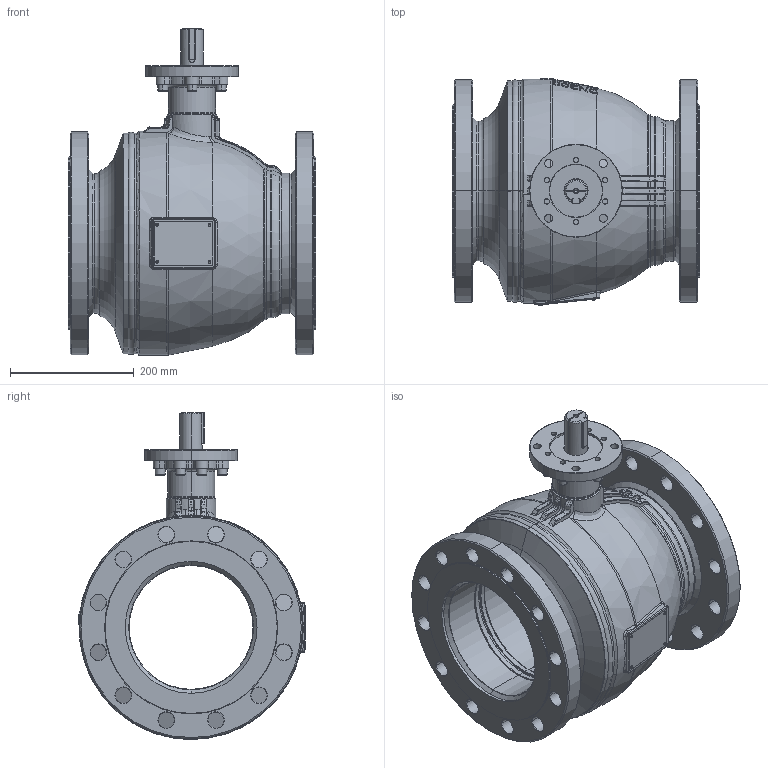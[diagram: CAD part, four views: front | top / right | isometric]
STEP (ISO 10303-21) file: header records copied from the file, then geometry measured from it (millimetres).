
FILE_DESCRIPTION((''),'2;1');
FILE_NAME('KHMO-F-V-200P025-VII-_SW0001','2024-04-16T15:18:33',('jeitlers'),('KLINGER'),'CREO PARAMETRIC BY PTC INC, 2023014','CREO PARAMETRIC BY PTC INC, 2023014','');
FILE_SCHEMA(('CONFIG_CONTROL_DESIGN'));
Products named in the file (1): KHMO-F-V-200P025-VII-_SW0001
Bounding box: 400 x 367.36 x 528 mm (x, y, z)
Volume: 11397580.5 mm3; surface area: 2105099.4 mm2
Topology: 4 solids, 4 shells, 1558 faces, 3955 edges, 2445 vertices
Faces by surface type: plane 643, cylinder 320, cone 252, torus 204, bspline 117, sphere 22
Entity records: 63815 total; most frequent: CARTESIAN_POINT 27743, ORIENTED_EDGE 7850, DIRECTION 7210, EDGE_CURVE 3925, AXIS2_PLACEMENT_3D 2965, VERTEX_POINT 2445, EDGE_LOOP 1710, FACE_OUTER_BOUND 1558
